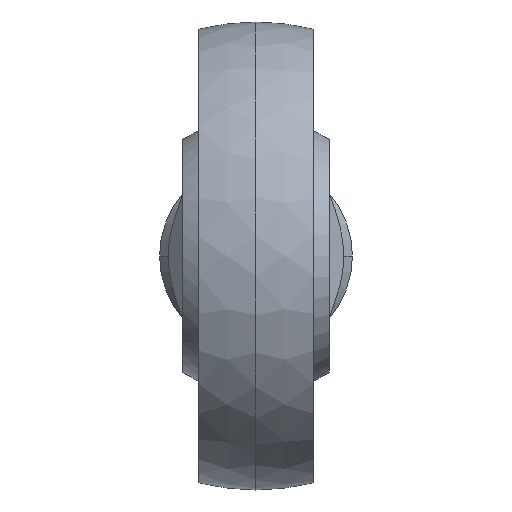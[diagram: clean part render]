
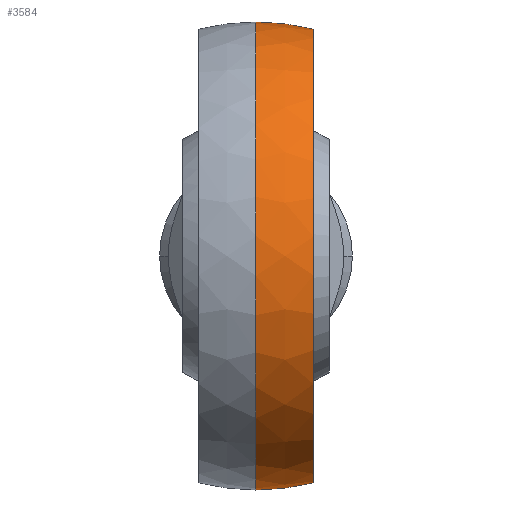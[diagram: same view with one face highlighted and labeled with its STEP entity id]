
A CAD part, left-side view. The second image highlights one B-rep face of the part: STEP entity #3584.
In plain terms, the highlighted spherical face has radius 51 mm.
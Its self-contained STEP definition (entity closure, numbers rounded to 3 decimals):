
#204 = EDGE_CURVE ( 'NONE', #5970, #4555, #942, .T. ) ;
#232 = ORIENTED_EDGE ( 'NONE', *, *, #1953, .F. ) ;
#540 = CARTESIAN_POINT ( 'NONE',  ( 19.105, 0., -47.286 ) ) ;
#572 = CARTESIAN_POINT ( 'NONE',  ( 0., 0., 0. ) ) ;
#604 = DIRECTION ( 'NONE',  ( 1., 0., 0. ) ) ;
#942 = CIRCLE ( 'NONE', #1797, 49.444 ) ;
#1115 = CIRCLE ( 'NONE', #4482, 47.286 ) ;
#1193 = CIRCLE ( 'NONE', #2525, 47.286 ) ;
#1194 = ORIENTED_EDGE ( 'NONE', *, *, #204, .T. ) ;
#1221 = DIRECTION ( 'NONE',  ( 0., 1., 0. ) ) ;
#1797 = AXIS2_PLACEMENT_3D ( 'NONE', #6067, #1221, #5118 ) ;
#1836 = CARTESIAN_POINT ( 'NONE',  ( 19.105, -12.5, -45.604 ) ) ;
#1953 = EDGE_CURVE ( 'NONE', #5970, #2577, #1193, .T. ) ;
#2031 = DIRECTION ( 'NONE',  ( 0., 1., 0. ) ) ;
#2145 = EDGE_CURVE ( 'NONE', #3852, #2577, #6193, .T. ) ;
#2448 = CARTESIAN_POINT ( 'NONE',  ( 19.105, 0., 0. ) ) ;
#2477 = CARTESIAN_POINT ( 'NONE',  ( 19.105, 0., 0. ) ) ;
#2522 = EDGE_LOOP ( 'NONE', ( #4968, #232, #1194, #3026 ) ) ;
#2525 = AXIS2_PLACEMENT_3D ( 'NONE', #2477, #4808, #3429 ) ;
#2577 = VERTEX_POINT ( 'NONE', #540 ) ;
#2632 = FACE_OUTER_BOUND ( 'NONE', #2522, .T. ) ;
#2674 = EDGE_CURVE ( 'NONE', #3852, #4555, #1115, .T. ) ;
#2854 = DIRECTION ( 'NONE',  ( 1., 0., 0. ) ) ;
#2976 = CARTESIAN_POINT ( 'NONE',  ( 19.105, 0., 47.286 ) ) ;
#3026 = ORIENTED_EDGE ( 'NONE', *, *, #2674, .F. ) ;
#3429 = DIRECTION ( 'NONE',  ( 0., 1., 0. ) ) ;
#3584 = ADVANCED_FACE ( 'NONE', ( #2632 ), #4936, .T. ) ;
#3852 = VERTEX_POINT ( 'NONE', #2976 ) ;
#3971 = CARTESIAN_POINT ( 'NONE',  ( 19.105, -12.5, 45.604 ) ) ;
#4152 = DIRECTION ( 'NONE',  ( 0., -1., 0. ) ) ;
#4204 = CARTESIAN_POINT ( 'NONE',  ( 0., 0., 0. ) ) ;
#4312 = AXIS2_PLACEMENT_3D ( 'NONE', #572, #2031, #604 ) ;
#4482 = AXIS2_PLACEMENT_3D ( 'NONE', #2448, #2854, #6270 ) ;
#4555 = VERTEX_POINT ( 'NONE', #3971 ) ;
#4808 = DIRECTION ( 'NONE',  ( 1., 0., 0. ) ) ;
#4936 = SPHERICAL_SURFACE ( 'NONE', #4312, 51. ) ;
#4968 = ORIENTED_EDGE ( 'NONE', *, *, #2145, .T. ) ;
#5118 = DIRECTION ( 'NONE',  ( 0., 0., -1. ) ) ;
#5185 = AXIS2_PLACEMENT_3D ( 'NONE', #4204, #4152, #5616 ) ;
#5616 = DIRECTION ( 'NONE',  ( 0., 0., 1. ) ) ;
#5970 = VERTEX_POINT ( 'NONE', #1836 ) ;
#6067 = CARTESIAN_POINT ( 'NONE',  ( 0., -12.5, 0. ) ) ;
#6193 = CIRCLE ( 'NONE', #5185, 51. ) ;
#6270 = DIRECTION ( 'NONE',  ( 0., 1., 0. ) ) ;
